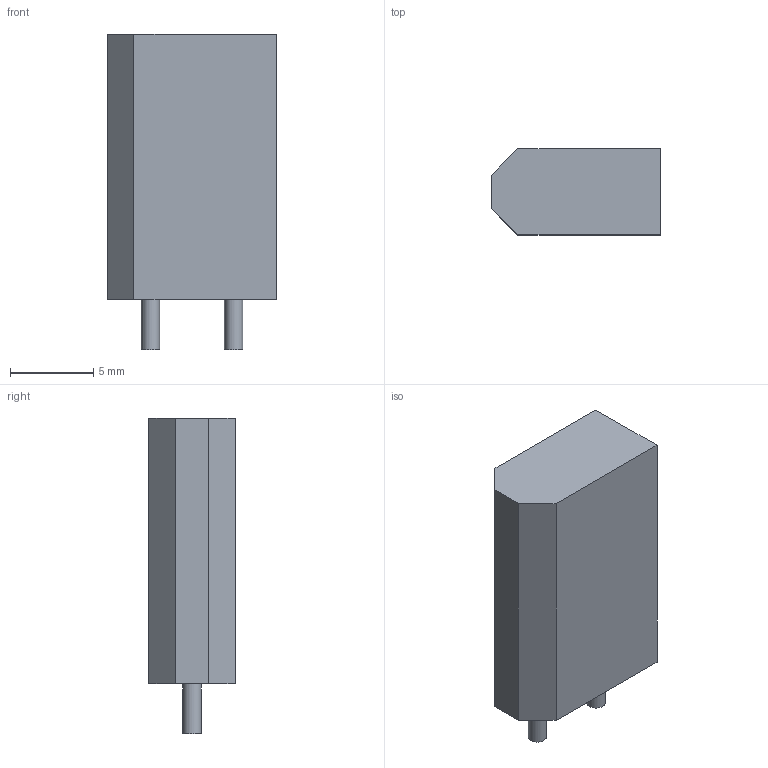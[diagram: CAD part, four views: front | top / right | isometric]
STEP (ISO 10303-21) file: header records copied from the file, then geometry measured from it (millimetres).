
FILE_DESCRIPTION(('Open CASCADE Model'),'2;1');
FILE_NAME('Open CASCADE Shape Model','2026-10-16T12:07:44',('Author'),( 'Open CASCADE'),'Open CASCADE STEP processor 8.0','build123d', 'Unknown');
FILE_SCHEMA(('AUTOMOTIVE_DESIGN { 1 0 10303 214 1 1 1 1 }'));
Length unit declared in the file: millimetre
Products named in the file (1): COMPOUND
Bounding box: 10.2 x 5.2 x 19 mm (x, y, z)
Volume: 813.4 mm3; surface area: 584.5 mm2
Topology: 1 solids, 1 shells, 12 faces, 24 edges, 16 vertices
Faces by surface type: plane 10, cylinder 2
Full cylindrical faces by diameter (mm): 1.1 x2
Entity records: 634 total; most frequent: DIRECTION 102, CARTESIAN_POINT 101, LINE 64, VECTOR 64, ORIENTED_EDGE 48, PCURVE 48, DEFINITIONAL_REPRESENTATION 48, EDGE_CURVE 24
